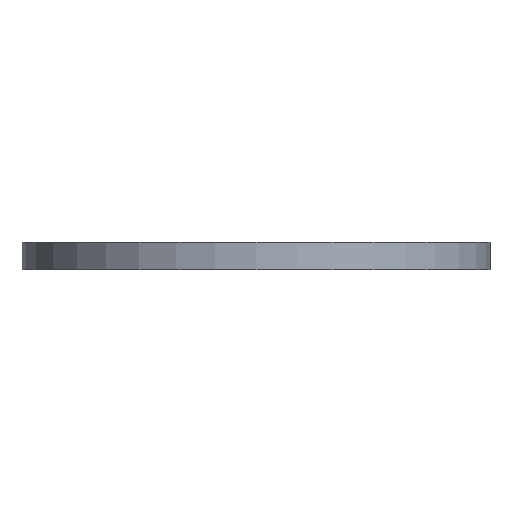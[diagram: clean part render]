
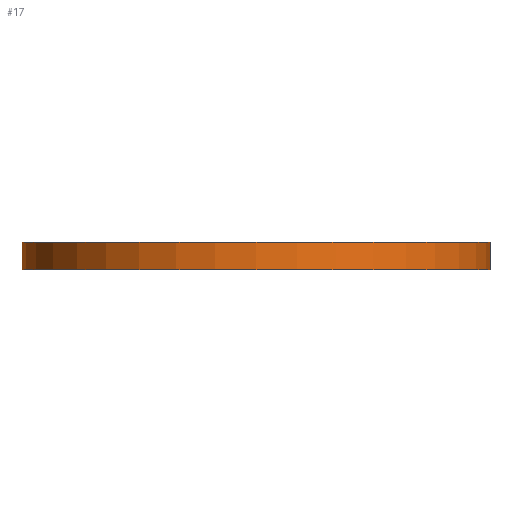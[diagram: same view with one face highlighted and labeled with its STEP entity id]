
A CAD part, front view. The second image highlights one B-rep face of the part: STEP entity #17.
In plain terms, the highlighted cylindrical face has radius 68 mm (diameter 136 mm), a full revolution.
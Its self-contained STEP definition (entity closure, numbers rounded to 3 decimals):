
#17 = ADVANCED_FACE('',(#18),#32,.T.);
#18 = FACE_BOUND('',#19,.F.);
#19 = EDGE_LOOP('',(#20,#50,#77,#78));
#20 = ORIENTED_EDGE('',*,*,#21,.T.);
#21 = EDGE_CURVE('',#22,#24,#26,.T.);
#22 = VERTEX_POINT('',#23);
#23 = CARTESIAN_POINT('',(68.,0.,0.));
#24 = VERTEX_POINT('',#25);
#25 = CARTESIAN_POINT('',(68.,0.,8.));
#26 = SEAM_CURVE('',#27,(#31,#43),.PCURVE_S1.);
#27 = LINE('',#28,#29);
#28 = CARTESIAN_POINT('',(68.,0.,0.));
#29 = VECTOR('',#30,1.);
#30 = DIRECTION('',(0.,0.,1.));
#31 = PCURVE('',#32,#37);
#32 = CYLINDRICAL_SURFACE('',#33,68.);
#33 = AXIS2_PLACEMENT_3D('',#34,#35,#36);
#34 = CARTESIAN_POINT('',(0.,0.,0.));
#35 = DIRECTION('',(-0.,-0.,-1.));
#36 = DIRECTION('',(1.,0.,0.));
#37 = DEFINITIONAL_REPRESENTATION('',(#38),#42);
#38 = LINE('',#39,#40);
#39 = CARTESIAN_POINT('',(-0.,0.));
#40 = VECTOR('',#41,1.);
#41 = DIRECTION('',(-0.,-1.));
#42 = ( GEOMETRIC_REPRESENTATION_CONTEXT(2) 
PARAMETRIC_REPRESENTATION_CONTEXT() REPRESENTATION_CONTEXT('2D SPACE',''
  ) );
#43 = PCURVE('',#32,#44);
#44 = DEFINITIONAL_REPRESENTATION('',(#45),#49);
#45 = LINE('',#46,#47);
#46 = CARTESIAN_POINT('',(-6.283,0.));
#47 = VECTOR('',#48,1.);
#48 = DIRECTION('',(-0.,-1.));
#49 = ( GEOMETRIC_REPRESENTATION_CONTEXT(2) 
PARAMETRIC_REPRESENTATION_CONTEXT() REPRESENTATION_CONTEXT('2D SPACE',''
  ) );
#50 = ORIENTED_EDGE('',*,*,#51,.T.);
#51 = EDGE_CURVE('',#24,#24,#52,.T.);
#52 = SURFACE_CURVE('',#53,(#58,#65),.PCURVE_S1.);
#53 = CIRCLE('',#54,68.);
#54 = AXIS2_PLACEMENT_3D('',#55,#56,#57);
#55 = CARTESIAN_POINT('',(0.,0.,8.));
#56 = DIRECTION('',(0.,0.,1.));
#57 = DIRECTION('',(1.,0.,0.));
#58 = PCURVE('',#32,#59);
#59 = DEFINITIONAL_REPRESENTATION('',(#60),#64);
#60 = LINE('',#61,#62);
#61 = CARTESIAN_POINT('',(-0.,-8.));
#62 = VECTOR('',#63,1.);
#63 = DIRECTION('',(-1.,0.));
#64 = ( GEOMETRIC_REPRESENTATION_CONTEXT(2) 
PARAMETRIC_REPRESENTATION_CONTEXT() REPRESENTATION_CONTEXT('2D SPACE',''
  ) );
#65 = PCURVE('',#66,#71);
#66 = PLANE('',#67);
#67 = AXIS2_PLACEMENT_3D('',#68,#69,#70);
#68 = CARTESIAN_POINT('',(0.,0.,8.));
#69 = DIRECTION('',(0.,0.,1.));
#70 = DIRECTION('',(1.,0.,-0.));
#71 = DEFINITIONAL_REPRESENTATION('',(#72),#76);
#72 = CIRCLE('',#73,68.);
#73 = AXIS2_PLACEMENT_2D('',#74,#75);
#74 = CARTESIAN_POINT('',(0.,0.));
#75 = DIRECTION('',(1.,0.));
#76 = ( GEOMETRIC_REPRESENTATION_CONTEXT(2) 
PARAMETRIC_REPRESENTATION_CONTEXT() REPRESENTATION_CONTEXT('2D SPACE',''
  ) );
#77 = ORIENTED_EDGE('',*,*,#21,.F.);
#78 = ORIENTED_EDGE('',*,*,#79,.F.);
#79 = EDGE_CURVE('',#22,#22,#80,.T.);
#80 = SURFACE_CURVE('',#81,(#86,#93),.PCURVE_S1.);
#81 = CIRCLE('',#82,68.);
#82 = AXIS2_PLACEMENT_3D('',#83,#84,#85);
#83 = CARTESIAN_POINT('',(0.,0.,0.));
#84 = DIRECTION('',(0.,0.,1.));
#85 = DIRECTION('',(1.,0.,0.));
#86 = PCURVE('',#32,#87);
#87 = DEFINITIONAL_REPRESENTATION('',(#88),#92);
#88 = LINE('',#89,#90);
#89 = CARTESIAN_POINT('',(-0.,0.));
#90 = VECTOR('',#91,1.);
#91 = DIRECTION('',(-1.,0.));
#92 = ( GEOMETRIC_REPRESENTATION_CONTEXT(2) 
PARAMETRIC_REPRESENTATION_CONTEXT() REPRESENTATION_CONTEXT('2D SPACE',''
  ) );
#93 = PCURVE('',#94,#99);
#94 = PLANE('',#95);
#95 = AXIS2_PLACEMENT_3D('',#96,#97,#98);
#96 = CARTESIAN_POINT('',(0.,0.,0.));
#97 = DIRECTION('',(0.,0.,1.));
#98 = DIRECTION('',(1.,0.,-0.));
#99 = DEFINITIONAL_REPRESENTATION('',(#100),#104);
#100 = CIRCLE('',#101,68.);
#101 = AXIS2_PLACEMENT_2D('',#102,#103);
#102 = CARTESIAN_POINT('',(0.,0.));
#103 = DIRECTION('',(1.,0.));
#104 = ( GEOMETRIC_REPRESENTATION_CONTEXT(2) 
PARAMETRIC_REPRESENTATION_CONTEXT() REPRESENTATION_CONTEXT('2D SPACE',''
  ) );
